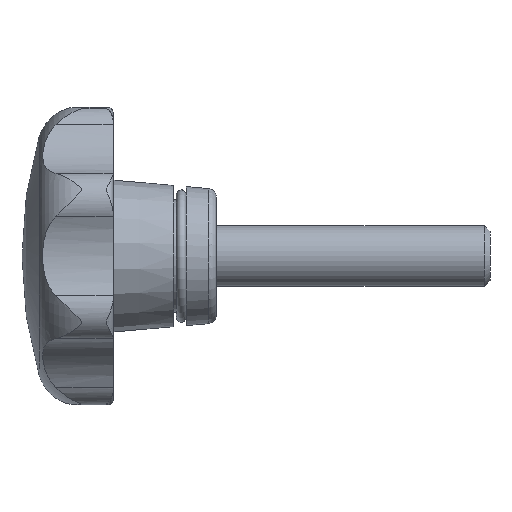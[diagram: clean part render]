
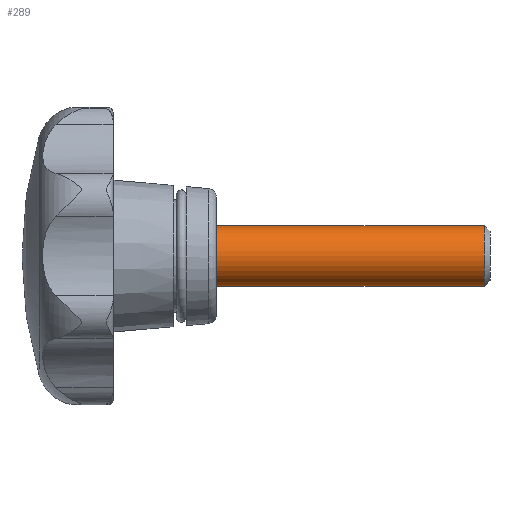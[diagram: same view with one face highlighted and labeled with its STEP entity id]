
A CAD part, left-side view. The second image highlights one B-rep face of the part: STEP entity #289.
In plain terms, the highlighted cylindrical face has radius 5 mm (diameter 10 mm), a full revolution.
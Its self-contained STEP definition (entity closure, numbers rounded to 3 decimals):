
#289 = ADVANCED_FACE( '', ( #615, #616 ), #617, .T. );
#615 = FACE_OUTER_BOUND( '', #997, .T. );
#616 = FACE_OUTER_BOUND( '', #998, .T. );
#617 = CYLINDRICAL_SURFACE( '', #999, 5. );
#997 = EDGE_LOOP( '', ( #2052 ) );
#998 = EDGE_LOOP( '', ( #2053 ) );
#999 = AXIS2_PLACEMENT_3D( '', #2054, #2055, #2056 );
#2052 = ORIENTED_EDGE( '', *, *, #2705, .F. );
#2053 = ORIENTED_EDGE( '', *, *, #2615, .T. );
#2054 = CARTESIAN_POINT( '', ( 0., -45., 0. ) );
#2055 = DIRECTION( '', ( 0., 1., 0. ) );
#2056 = DIRECTION( '', ( 0., 0., -1. ) );
#2615 = EDGE_CURVE( '', #3202, #3202, #3203, .T. );
#2705 = EDGE_CURVE( '', #3325, #3325, #3326, .T. );
#3202 = VERTEX_POINT( '', #4844 );
#3203 = CIRCLE( '', #4845, 5. );
#3325 = VERTEX_POINT( '', #5032 );
#3326 = CIRCLE( '', #5033, 5. );
#4844 = CARTESIAN_POINT( '', ( 0., 0., -5. ) );
#4845 = AXIS2_PLACEMENT_3D( '', #5594, #5595, #5596 );
#5032 = CARTESIAN_POINT( '', ( 0., -44.08, -5. ) );
#5033 = AXIS2_PLACEMENT_3D( '', #5795, #5796, #5797 );
#5594 = CARTESIAN_POINT( '', ( 0., 0., 0. ) );
#5595 = DIRECTION( '', ( 0., -1., 0. ) );
#5596 = DIRECTION( '', ( 0., 0., -1. ) );
#5795 = CARTESIAN_POINT( '', ( 0., -44.08, 0. ) );
#5796 = DIRECTION( '', ( 0., -1., 0. ) );
#5797 = DIRECTION( '', ( 0., 0., -1. ) );
